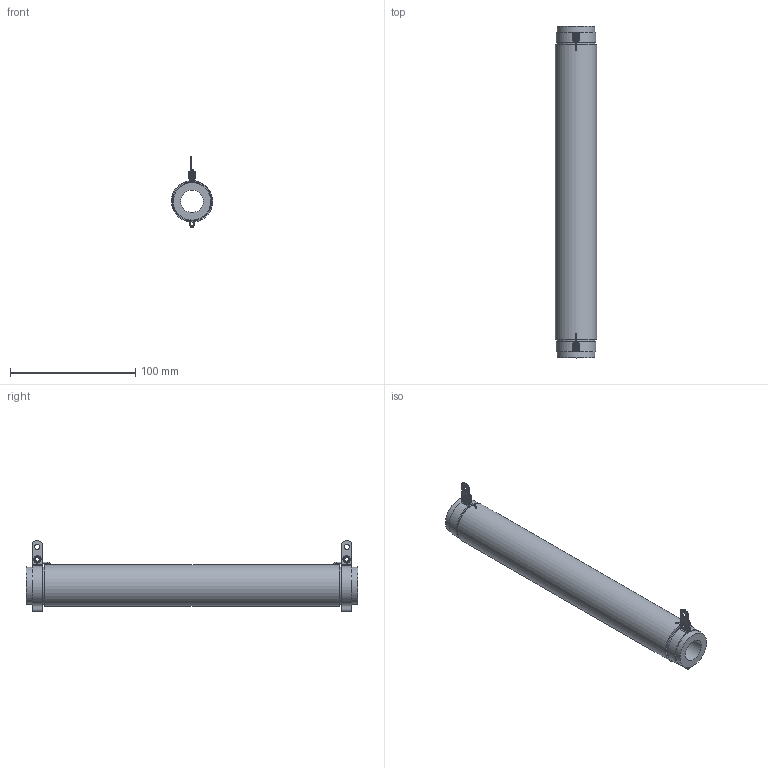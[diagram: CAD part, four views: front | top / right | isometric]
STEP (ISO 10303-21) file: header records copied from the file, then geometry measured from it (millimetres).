
FILE_DESCRIPTION(/* description */ (''),/* implementation_level */ '2;1');
FILE_NAME(/* name */ 'C:\_Vault\Dati\CATALOGO\RC-RS\TC\RS00260.stp',/* time_stamp */ '2014-01-22T17:41:30+01:00',/* author */ ('stefano'),/* organization */ (''),/* preprocessor_version */ 'ST-DEVELOPER v15.2',/* originating_system */ 'Autodesk Inventor 2014',/* authorisation */ '');
FILE_SCHEMA (('AUTOMOTIVE_DESIGN { 1 0 10303 214 3 1 1 }'));
Length unit declared in the file: millimetre
Products named in the file (1): RS00260
Bounding box: 33 x 265 x 56.36 mm (x, y, z)
Volume: 156470.9 mm3; surface area: 45561.1 mm2
Topology: 1 solids, 5 shells, 88 faces, 213 edges, 141 vertices
Faces by surface type: cylinder 38, plane 32, torus 10, bspline 8
Full cylindrical faces by diameter (mm): 0.4 x2, 0.8 x4, 3.2 x2, 4.2 x4, 6 x4, 18 x1, 30 x2, 33 x1
Entity records: 2971 total; most frequent: CARTESIAN_POINT 915, DIRECTION 398, ORIENTED_EDGE 340, AXIS2_PLACEMENT_3D 171, EDGE_CURVE 170, EDGE_LOOP 148, VERTEX_POINT 130, CIRCLE 90
